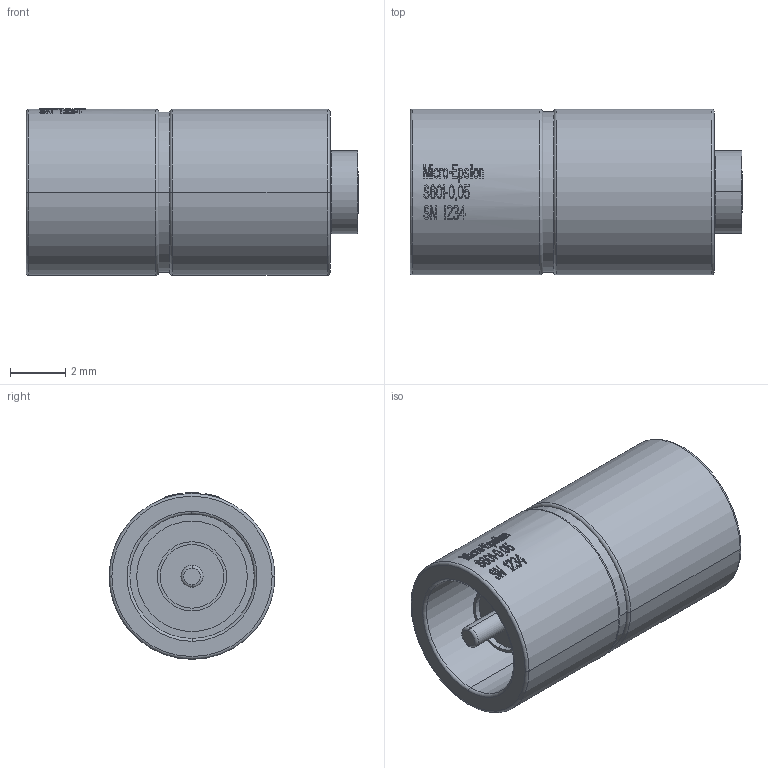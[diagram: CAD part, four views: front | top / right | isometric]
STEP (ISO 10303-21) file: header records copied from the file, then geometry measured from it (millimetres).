
FILE_DESCRIPTION((''),'2;1');
FILE_NAME('S601-005','2008-09-19T',('11000205'),(''),'PRO/ENGINEER BY PARAMETRIC TECHNOLOGY CORPORATION, 2006460','PRO/ENGINEER BY PARAMETRIC TECHNOLOGY CORPORATION, 2006460','');
FILE_SCHEMA(('CONFIG_CONTROL_DESIGN'));
Length unit declared in the file: millimetre
Products named in the file (1): S601-005
Bounding box: 12.01 x 6 x 6.03 mm (x, y, z)
Volume: 265.5 mm3; surface area: 357 mm2
Topology: 1 solids, 1 shells, 862 faces, 2418 edges, 1606 vertices
Faces by surface type: plane 784, cylinder 64, torus 14
Entity records: 27462 total; most frequent: CARTESIAN_POINT 7102, ORIENTED_EDGE 4836, DIRECTION 3320, EDGE_CURVE 2418, VERTEX_POINT 1606, AXIS2_PLACEMENT_3D 1148, B_SPLINE_CURVE_WITH_KNOTS 1108, VECTOR 1024
